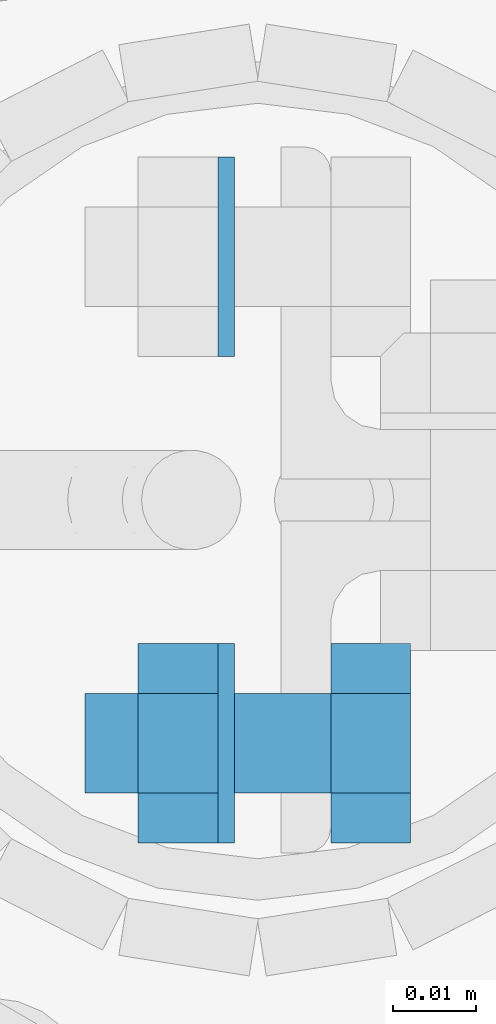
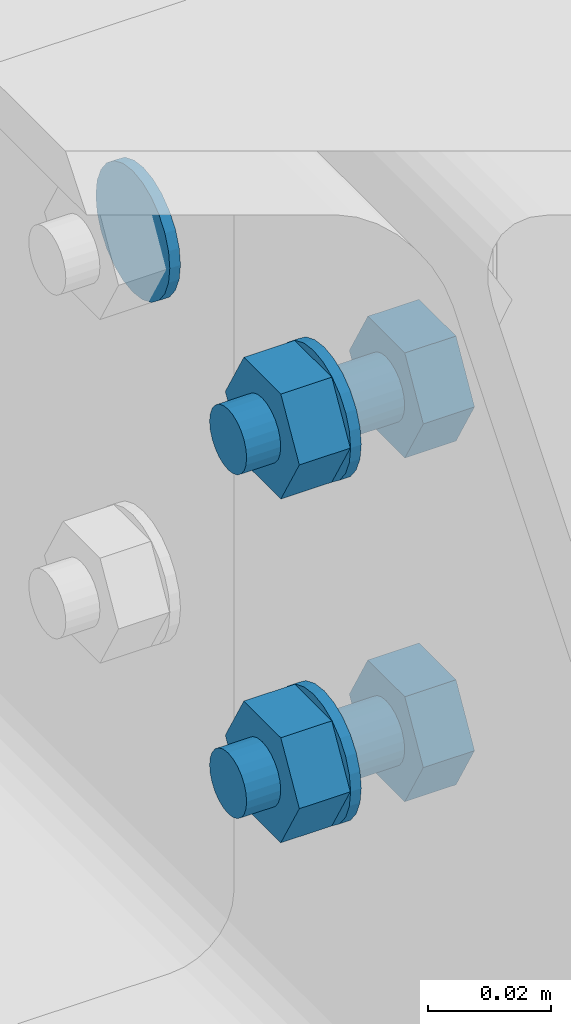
# One storey, part 35 of 84: 9 mechanical fasteners.
"""IFC4 building model written with IfcOpenShell, lengths in metres."""

from ifc_helpers import new_model, si_unit, frame, origin_with_axes, place, context, project, spatial, polyline, outline, extrude, type_object, element, save


model = new_model("IFC4")

# Units and contexts
model_context = context("Model", 3, precision=1e-05, world=origin_with_axes())
ifc_project = project(units=[si_unit("LENGTHUNIT", "METRE"), si_unit("AREAUNIT", "SQUARE_METRE"), si_unit("VOLUMEUNIT", "CUBIC_METRE"), si_unit("MASSUNIT", "GRAM", prefix="KILO"), si_unit("TIMEUNIT", "SECOND"), si_unit("PLANEANGLEUNIT", "RADIAN"), si_unit("SOLIDANGLEUNIT", "STERADIAN"), si_unit("THERMODYNAMICTEMPERATUREUNIT", "DEGREE_CELSIUS")], contexts=[model_context])

# Site, building, storey
placement_1 = place(None, origin_with_axes())
site = spatial("IfcSite", under=ifc_project, at=placement_1, Name="Italia", CompositionType="ELEMENT")
building = spatial("IfcBuilding", under=site, at=placement_1, Name="Tettoia", CompositionType="ELEMENT")
storey_placement = place(None, frame((0.0, 0.0, 4.199999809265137), z_axis=(0.0, 0.0, 1.0), x_axis=(1.0, 0.0, 0.0)))
storey = spatial("IfcBuildingStorey", under=building, at=storey_placement, Name="Storey 1", CompositionType="ELEMENT", Elevation=4.199999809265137)

# Mechanical fasteners
mechanical_fastener_type_1 = type_object("IfcMechanicalFastenerType", Name="Collegamento 0105_0106", PredefinedType="BOLT")
placement_2 = place(placement_1, origin_with_axes())
mechanical_fastener_1_placement = place(placement_2, origin_with_axes())
element("IfcMechanicalFastener", 1, at=mechanical_fastener_1_placement, inside=storey, type_object=mechanical_fastener_type_1, Name="Collegamento 0105_0106", NominalDiameter=0.024, context=model_context, shape_type="SweptSolid", body=[
    extrude(outline(polyline([(0.0, 0.0), (-0.000409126, -0.00310564), (-0.00160789, -0.00600004), (-0.00351477, -0.00848532), (-0.00600004, -0.0103922), (-0.00889444, -0.011591), (-0.0120001, -0.0120001), (-0.0151057, -0.011591), (-0.0180001, -0.0103922), (-0.0204854, -0.00848532), (-0.0223923, -0.00600004), (-0.023591, -0.00310564), (-0.0240002, 0.0), (-0.023591, 0.00310564), (-0.0223923, 0.00600004), (-0.0204854, 0.00848532), (-0.0180001, 0.0103922), (-0.0151057, 0.011591), (-0.0120001, 0.0120001), (-0.00889444, 0.011591), (-0.00600004, 0.0103922), (-0.00351477, 0.00848532), (-0.00160789, 0.00600004), (-0.000409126, 0.00310564), (0.0, 0.0)])), frame((8.2852, 7.3413, 4.334), z_axis=(1.0, 0.0, 0.0), x_axis=(0.0, 1.0, 0.0)), (0.0, 0.0, 1.0), 0.00199986),
])
mechanical_fastener_type_2 = type_object("IfcMechanicalFastenerType", Name="Collegamento 0105_0106", PredefinedType="BOLT")
mechanical_fastener_2_placement = place(placement_2, origin_with_axes())
element("IfcMechanicalFastener", 2, at=mechanical_fastener_2_placement, inside=storey, type_object=mechanical_fastener_type_2, Name="Collegamento 0105_0106", NominalDiameter=0.0119996, context=model_context, shape_type="SweptSolid", body=[
    extrude(outline(polyline([(0.0, 0.0), (-0.0119996, 0.0), (-0.0179996, 0.0103922), (-0.0119996, 0.0207844), (0.0, 0.0207844), (0.00600004, 0.0103922), (0.0, 0.0)])), frame((8.3084, 7.2647, 4.25561), z_axis=(-1.0, 0.0, 0.0), x_axis=(0.0, -1.0, 0.0)), (0.0, 0.0, 1.0), 0.00960064),
])
mechanical_fastener_type_3 = type_object("IfcMechanicalFastenerType", Name="Collegamento 0105_0106", PredefinedType="BOLT")
mechanical_fastener_3_placement = place(placement_2, origin_with_axes())
element("IfcMechanicalFastener", 3, at=mechanical_fastener_3_placement, inside=storey, type_object=mechanical_fastener_type_3, Name="Collegamento 0105_0106", NominalDiameter=0.012, context=model_context, shape_type="SweptSolid", body=[
    extrude(outline(polyline([(0.0, 0.0), (-0.000204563, -0.00155306), (-0.000803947, -0.00299978), (-0.00175762, -0.00424242), (-0.00300026, -0.00519609), (-0.00444698, -0.00579548), (-0.00600004, -0.00600004), (-0.0075531, -0.00579548), (-0.00899982, -0.00519609), (-0.0102425, -0.00424242), (-0.0111961, -0.00299978), (-0.0117955, -0.00155306), (-0.0120001, 0.0), (-0.0117955, 0.00155306), (-0.0111961, 0.00299978), (-0.0102425, 0.00424242), (-0.00899982, 0.00519609), (-0.0075531, 0.00579548), (-0.00600004, 0.00600004), (-0.00444698, 0.00579548), (-0.00300026, 0.00519609), (-0.00175762, 0.00424242), (-0.000803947, 0.00299978), (-0.000204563, 0.00155306), (0.0, 0.0)])), frame((8.2988, 7.2647, 4.266), z_axis=(-1.0, 0.0, 0.0), x_axis=(0.0, -1.0, 0.0)), (0.0, 0.0, 1.0), 0.0295992),
])
mechanical_fastener_type_4 = type_object("IfcMechanicalFastenerType", Name="Collegamento 0105_0106", PredefinedType="BOLT")
mechanical_fastener_4_placement = place(placement_2, origin_with_axes())
element("IfcMechanicalFastener", 4, at=mechanical_fastener_4_placement, inside=storey, type_object=mechanical_fastener_type_4, Name="Collegamento 0105_0106", NominalDiameter=0.0119996, context=model_context, shape_type="SweptSolid", body=[
    extrude(outline(polyline([(0.0, 0.0), (-0.0119996, 0.0), (-0.0179996, 0.0103922), (-0.0119996, 0.0207844), (0.0, 0.0207844), (0.00600004, 0.0103922), (0.0, 0.0)])), frame((8.2852, 7.2647, 4.25561), z_axis=(-1.0, 0.0, 0.0), x_axis=(0.0, -1.0, 0.0)), (0.0, 0.0, 1.0), 0.00960064),
])
mechanical_fastener_type_5 = type_object("IfcMechanicalFastenerType", Name="Collegamento 0105_0106", PredefinedType="BOLT")
mechanical_fastener_5_placement = place(placement_2, origin_with_axes())
element("IfcMechanicalFastener", 5, at=mechanical_fastener_5_placement, inside=storey, type_object=mechanical_fastener_type_5, Name="Collegamento 0105_0106", NominalDiameter=0.024, context=model_context, shape_type="SweptSolid", body=[
    extrude(outline(polyline([(0.0, 0.0), (-0.000409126, -0.00310564), (-0.00160789, -0.00600004), (-0.00351477, -0.00848532), (-0.00600004, -0.0103922), (-0.00889444, -0.011591), (-0.0120001, -0.0120001), (-0.0151057, -0.011591), (-0.0180001, -0.0103922), (-0.0204854, -0.00848532), (-0.0223923, -0.00600004), (-0.023591, -0.00310564), (-0.0240002, 0.0), (-0.023591, 0.00310564), (-0.0223923, 0.00600004), (-0.0204854, 0.00848532), (-0.0180001, 0.0103922), (-0.0151057, 0.011591), (-0.0120001, 0.0120001), (-0.00889444, 0.011591), (-0.00600004, 0.0103922), (-0.00351477, 0.00848532), (-0.00160789, 0.00600004), (-0.000409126, 0.00310564), (0.0, 0.0)])), frame((8.2872, 7.2587, 4.266), z_axis=(-1.0, 0.0, 0.0), x_axis=(0.0, -1.0, 0.0)), (0.0, 0.0, 1.0), 0.00199986),
])
mechanical_fastener_type_6 = type_object("IfcMechanicalFastenerType", Name="Collegamento 0105_0106", PredefinedType="BOLT")
mechanical_fastener_6_placement = place(placement_2, origin_with_axes())
element("IfcMechanicalFastener", 6, at=mechanical_fastener_6_placement, inside=storey, type_object=mechanical_fastener_type_6, Name="Collegamento 0105_0106", NominalDiameter=0.0119996, context=model_context, shape_type="SweptSolid", body=[
    extrude(outline(polyline([(0.0, 0.0), (-0.0119996, 0.0), (-0.0179996, 0.0103922), (-0.0119996, 0.0207844), (0.0, 0.0207844), (0.00600004, 0.0103922), (0.0, 0.0)])), frame((8.3084, 7.2647, 4.32361), z_axis=(-1.0, 0.0, 0.0), x_axis=(0.0, -1.0, 0.0)), (0.0, 0.0, 1.0), 0.00960064),
])
mechanical_fastener_type_7 = type_object("IfcMechanicalFastenerType", Name="Collegamento 0105_0106", PredefinedType="BOLT")
mechanical_fastener_7_placement = place(placement_2, origin_with_axes())
element("IfcMechanicalFastener", 7, at=mechanical_fastener_7_placement, inside=storey, type_object=mechanical_fastener_type_7, Name="Collegamento 0105_0106", NominalDiameter=0.012, context=model_context, shape_type="SweptSolid", body=[
    extrude(outline(polyline([(0.0, 0.0), (-0.000204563, -0.00155306), (-0.000803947, -0.00299978), (-0.00175762, -0.00424242), (-0.00300026, -0.00519609), (-0.00444698, -0.00579548), (-0.00600004, -0.00600004), (-0.0075531, -0.00579548), (-0.00899982, -0.00519609), (-0.0102425, -0.00424242), (-0.0111961, -0.00299978), (-0.0117955, -0.00155306), (-0.0120001, 0.0), (-0.0117955, 0.00155306), (-0.0111961, 0.00299978), (-0.0102425, 0.00424242), (-0.00899982, 0.00519609), (-0.0075531, 0.00579548), (-0.00600004, 0.00600004), (-0.00444698, 0.00579548), (-0.00300026, 0.00519609), (-0.00175762, 0.00424242), (-0.000803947, 0.00299978), (-0.000204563, 0.00155306), (0.0, 0.0)])), frame((8.2988, 7.2647, 4.334), z_axis=(-1.0, 0.0, 0.0), x_axis=(0.0, -1.0, 0.0)), (0.0, 0.0, 1.0), 0.0295992),
])
mechanical_fastener_type_8 = type_object("IfcMechanicalFastenerType", Name="Collegamento 0105_0106", PredefinedType="BOLT")
mechanical_fastener_8_placement = place(placement_2, origin_with_axes())
element("IfcMechanicalFastener", 8, at=mechanical_fastener_8_placement, inside=storey, type_object=mechanical_fastener_type_8, Name="Collegamento 0105_0106", NominalDiameter=0.0119996, context=model_context, shape_type="SweptSolid", body=[
    extrude(outline(polyline([(0.0, 0.0), (-0.0119996, 0.0), (-0.0179996, 0.0103922), (-0.0119996, 0.0207844), (0.0, 0.0207844), (0.00600004, 0.0103922), (0.0, 0.0)])), frame((8.2852, 7.2647, 4.32361), z_axis=(-1.0, 0.0, 0.0), x_axis=(0.0, -1.0, 0.0)), (0.0, 0.0, 1.0), 0.00960064),
])
mechanical_fastener_type_9 = type_object("IfcMechanicalFastenerType", Name="Collegamento 0105_0106", PredefinedType="BOLT")
mechanical_fastener_9_placement = place(placement_2, origin_with_axes())
element("IfcMechanicalFastener", 9, at=mechanical_fastener_9_placement, inside=storey, type_object=mechanical_fastener_type_9, Name="Collegamento 0105_0106", NominalDiameter=0.024, context=model_context, shape_type="SweptSolid", body=[
    extrude(outline(polyline([(0.0, 0.0), (-0.000409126, -0.00310564), (-0.00160789, -0.00600004), (-0.00351477, -0.00848532), (-0.00600004, -0.0103922), (-0.00889444, -0.011591), (-0.0120001, -0.0120001), (-0.0151057, -0.011591), (-0.0180001, -0.0103922), (-0.0204854, -0.00848532), (-0.0223923, -0.00600004), (-0.023591, -0.00310564), (-0.0240002, 0.0), (-0.023591, 0.00310564), (-0.0223923, 0.00600004), (-0.0204854, 0.00848532), (-0.0180001, 0.0103922), (-0.0151057, 0.011591), (-0.0120001, 0.0120001), (-0.00889444, 0.011591), (-0.00600004, 0.0103922), (-0.00351477, 0.00848532), (-0.00160789, 0.00600004), (-0.000409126, 0.00310564), (0.0, 0.0)])), frame((8.2872, 7.2587, 4.334), z_axis=(-1.0, 0.0, 0.0), x_axis=(0.0, -1.0, 0.0)), (0.0, 0.0, 1.0), 0.00199986),
])

save(model, "model.ifc")
